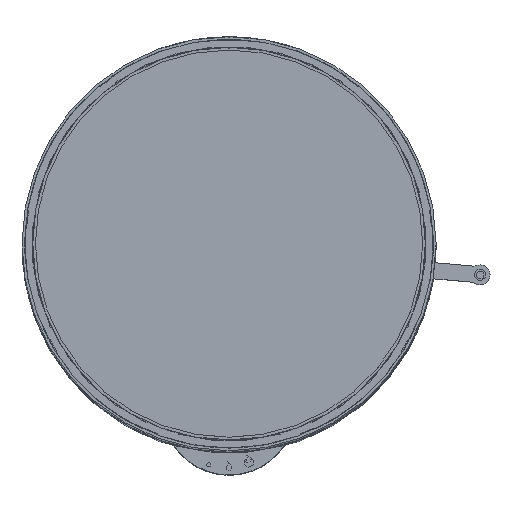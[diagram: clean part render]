
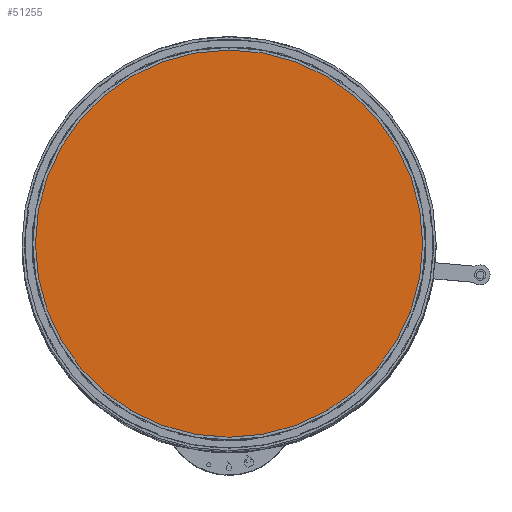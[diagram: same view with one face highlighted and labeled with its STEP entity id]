
A CAD part, top view. The second image highlights one B-rep face of the part: STEP entity #51255.
In plain terms, the highlighted planar face has unit normal (0, 0, 1).
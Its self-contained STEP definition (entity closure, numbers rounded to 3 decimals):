
#11528=FACE_OUTER_BOUND('',#14275,.T.);
#14275=EDGE_LOOP('',(#34319,#34320));
#17251=CIRCLE('',#54343,216.);
#17263=CIRCLE('',#54359,216.);
#20275=VERTEX_POINT('',#77927);
#20276=VERTEX_POINT('',#77928);
#25508=EDGE_CURVE('',#20275,#20276,#17251,.T.);
#25528=EDGE_CURVE('',#20276,#20275,#17263,.T.);
#34319=ORIENTED_EDGE('',*,*,#25508,.F.);
#34320=ORIENTED_EDGE('',*,*,#25528,.F.);
#47040=PLANE('',#54361);
#51255=ADVANCED_FACE('',(#11528),#47040,.F.);
#54343=AXIS2_PLACEMENT_3D('',#77929,#60996,#60997);
#54359=AXIS2_PLACEMENT_3D('',#77957,#61036,#61037);
#54361=AXIS2_PLACEMENT_3D('',#77959,#61040,#61041);
#60996=DIRECTION('center_axis',(0.,0.,
-1.));
#60997=DIRECTION('ref_axis',(-1.,0.,0.));
#61036=DIRECTION('center_axis',(0.,0.,
-1.));
#61037=DIRECTION('ref_axis',(-1.,0.,0.));
#61040=DIRECTION('center_axis',(0.,0.,
-1.));
#61041=DIRECTION('ref_axis',(-1.,0.,0.));
#77927=CARTESIAN_POINT('',(0.493,215.999,957.5));
#77928=CARTESIAN_POINT('',(-0.493,215.999,957.5));
#77929=CARTESIAN_POINT('Origin',(0.,0.,
957.5));
#77957=CARTESIAN_POINT('Origin',(0.,0.,
957.5));
#77959=CARTESIAN_POINT('Origin',(0.,0.,
957.5));
